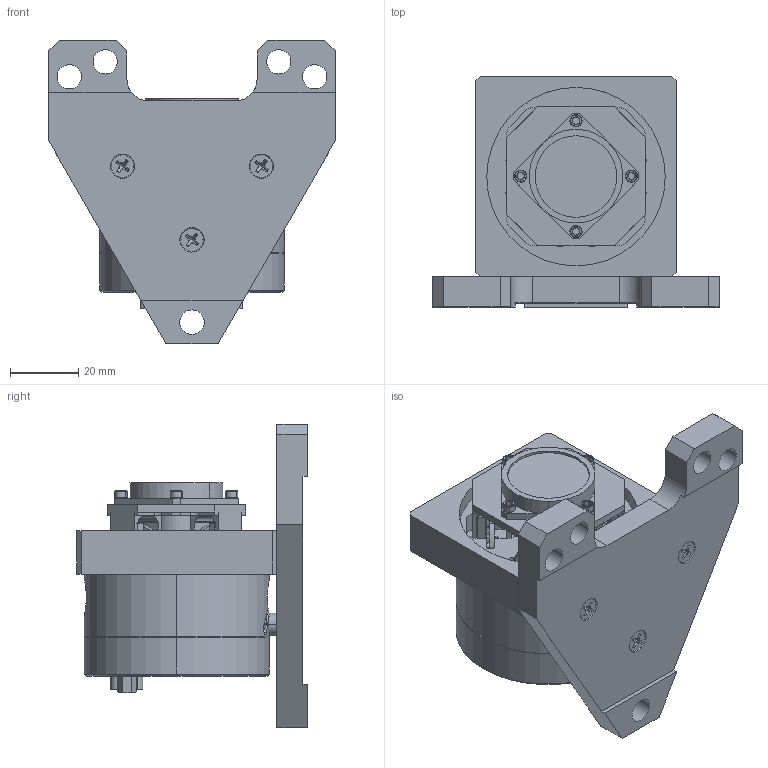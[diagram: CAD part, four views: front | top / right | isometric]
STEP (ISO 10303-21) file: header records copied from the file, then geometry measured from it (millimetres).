
FILE_DESCRIPTION (( 'STEP AP203' ), '1' );
FILE_NAME ('OIM101 Solid Model Simplified.STEP', '2012-03-06T18:20:58', ( '' ), ( '' ), 'SwSTEP 2.0', 'SolidWorks 2011', '' );
FILE_SCHEMA (( 'CONFIG_CONTROL_DESIGN' ));
Length unit declared in the file: inch
Products named in the file (4): OIM101 Solid Model Simplified; 91771A148 #6-500 FHMS_91771A148; OIM5102 REV A, OPTICAL TABLE MOUNTING FOOT; OIM101 Simple Model
Assembly tree (5 placements, depth 2):
  OIM101 Solid Model Simplified
    91771A148 #6-500 FHMS_91771A148  x3
    OIM5102 REV A, OPTICAL TABLE MOUNTING FOOT
    OIM101 Simple Model
Bounding box: 83.82 x 67.49 x 88.9 mm (x, y, z)
Volume: 136241.8 mm3; surface area: 47874.6 mm2
Topology: 7 solids, 7 shells, 1366 faces, 3489 edges, 2148 vertices
Faces by surface type: cylinder 521, plane 448, cone 280, torus 50, bspline 35, sphere 32
Entity records: 36090 total; most frequent: CARTESIAN_POINT 9292, DIRECTION 5581, ORIENTED_EDGE 5510, EDGE_CURVE 2755, AXIS2_PLACEMENT_3D 2071, VERTEX_POINT 1722, LINE 1439, VECTOR 1439
